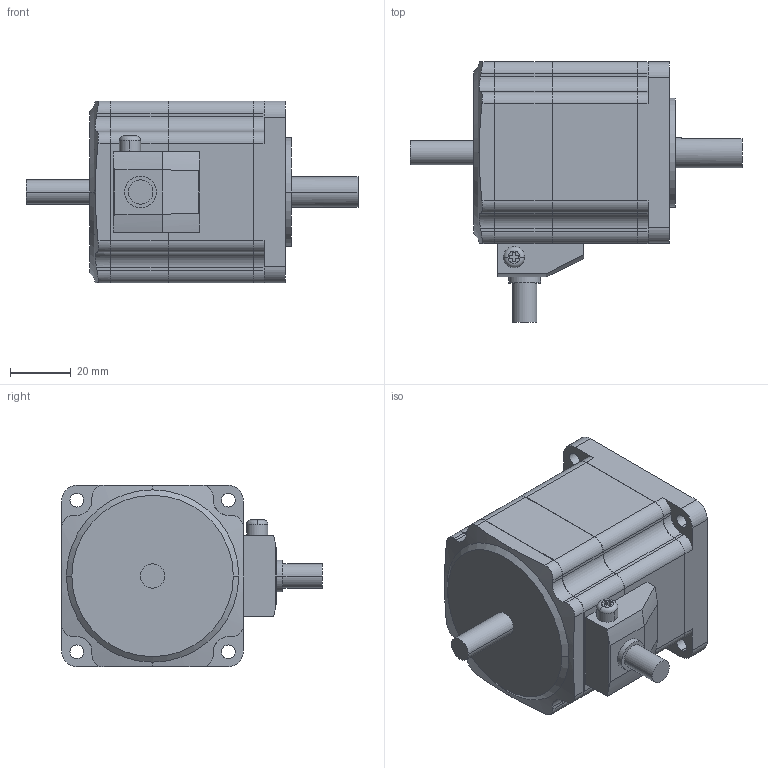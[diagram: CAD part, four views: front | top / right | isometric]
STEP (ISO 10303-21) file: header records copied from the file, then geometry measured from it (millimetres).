
FILE_DESCRIPTION( ( '' ), '1' );
FILE_NAME( 'c:/cad_url_generator/oriental/selction_from_product_tree/stepping_motors/alpha_step/ar_series/built_in_pos_fun_type/bi_standard/AR66BCD-1.STEP', '2012-06-14T16:37:59', ( '' ), ( '' ), ' ', ' ', ' ' );
FILE_SCHEMA( ( 'CONFIG_CONTROL_DESIGN' ) );
Length unit declared in the file: millimetre
Products named in the file (1): 1
Bounding box: 109.5 x 86 x 60 mm (x, y, z)
Volume: 219792.3 mm3; surface area: 24139 mm2
Topology: 1 solids, 1 shells, 244 faces, 688 edges, 457 vertices
Faces by surface type: plane 124, cylinder 112, cone 4, sphere 2, torus 2
Entity records: 8263 total; most frequent: CARTESIAN_POINT 1678, DIRECTION 1399, ORIENTED_EDGE 1376, EDGE_CURVE 688, AXIS2_PLACEMENT_3D 486, VERTEX_POINT 457, LINE 427, VECTOR 427
